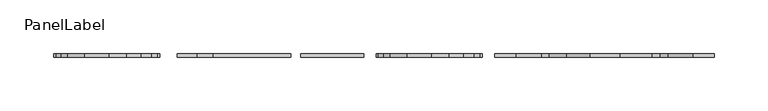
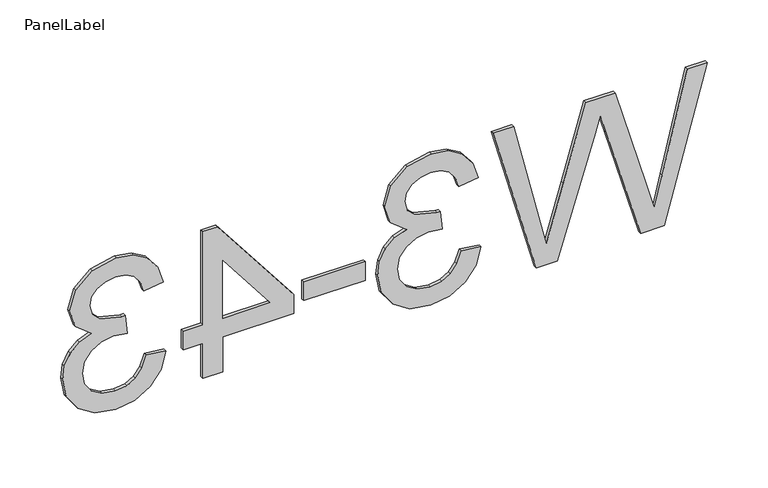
"""IFC4 building model written with IfcOpenShell, lengths in millimetres: fastener geometry, PanelLabel : Miranda."""

import ifcopenshell
import ifcopenshell.guid

model = None  # the IFC model being written
_history = None  # IfcOwnerHistory: only IFC2X3 demands one
_inside = {}  # id of a spatial element -> (the spatial element, [elements in it])
_under = {}  # id of a project, library or spatial element -> (it, [spatial elements below it])
_declared = {}  # id of a project -> (the project, [libraries it declares])
_typed = {}  # id of a type object -> (the type object, [elements of that type])
_made_of = {}  # id of a material, layer set ... -> (it, [elements and type objects made of it])


def new_model(schema):
    """Start an empty IFC model of exactly this schema.

    Asked for "IFC4X3", IfcOpenShell would pick the latest addendum, in which some entities
    have other attributes; the version numbers below select the first issue.
    IFC2X3 requires an IfcOwnerHistory on every rooted entity: one is made here for all.
    """
    global model, _history
    if schema == "IFC4X3":
        model = ifcopenshell.file(schema_version=(4, 3, 0, 0))
    else:
        model = ifcopenshell.file(schema=schema)
    _inside.clear()
    _under.clear()
    _declared.clear()
    _typed.clear()
    _made_of.clear()
    _history = None
    if model.schema == "IFC2X3":
        org = make("IfcOrganization", Name="unknown")
        user = make(
            "IfcPersonAndOrganization",
            ThePerson=make("IfcPerson", FamilyName="unknown"),
            TheOrganization=org,
        )
        app = make(
            "IfcApplication",
            ApplicationDeveloper=org,
            Version="unknown",
            ApplicationFullName="unknown",
            ApplicationIdentifier="unknown",
        )
        _history = make(
            "IfcOwnerHistory",
            OwningUser=user,
            OwningApplication=app,
            ChangeAction="ADDED",
            CreationDate=0,
        )
    return model


def make(cls, **values):
    """One entity of the class cls with the attributes given. An attribute that is None is left unset."""
    return model.create_entity(
        cls, **{name: value for name, value in values.items() if value is not None}
    )


def rooted(cls, **values):
    """An entity with a GlobalId (a new one), such as an element, a storey or a relation."""
    return make(cls, GlobalId=ifcopenshell.guid.new(), OwnerHistory=_history, **values)


def si_unit(unit_type, name, prefix=None):
    """IfcSIUnit, for example si_unit("LENGTHUNIT", "METRE", prefix="MILLI")."""
    return make("IfcSIUnit", UnitType=unit_type, Prefix=prefix, Name=name)


def assignment(units):
    """IfcUnitAssignment: the units of a project."""
    return None if units is None else make("IfcUnitAssignment", Units=units)


def point(xyz):
    """IfcCartesianPoint."""
    return None if xyz is None else make("IfcCartesianPoint", Coordinates=xyz)


def direction(xyz):
    """IfcDirection."""
    return None if xyz is None else make("IfcDirection", DirectionRatios=xyz)


def frame(location, z_axis=None, x_axis=None):
    """IfcAxis2Placement3D, a coordinate frame: its origin and axes. An axis left out is left unset."""
    return make(
        "IfcAxis2Placement3D",
        Location=point(location),
        Axis=direction(z_axis),
        RefDirection=direction(x_axis),
    )


def origin():
    """The frame at (0, 0, 0) with its axes left unset."""
    return frame((0.0, 0.0, 0.0))


def place(relative_to, where):
    """IfcLocalPlacement: puts the frame where relative to a parent placement (None: the world)."""
    return make(
        "IfcLocalPlacement", PlacementRelTo=relative_to, RelativePlacement=where
    )


def context(
    kind, dimensions, precision=None, world=None, true_north=None, identifier=None
):
    """IfcGeometricRepresentationContext, for example the 3D "Model" context."""
    return make(
        "IfcGeometricRepresentationContext",
        ContextIdentifier=identifier,
        ContextType=kind,
        CoordinateSpaceDimension=dimensions,
        Precision=precision,
        WorldCoordinateSystem=world,
        TrueNorth=true_north,
    )


def project(units=None, contexts=None):
    """IfcProject with its units and contexts."""
    return rooted(
        "IfcProject",
        Name="project",
        RepresentationContexts=contexts,
        UnitsInContext=assignment(units),
    )


def spatial(cls, under=None, at=None, **own):
    """A site, building, storey or space (cls), placed at a placement, below another one or the project."""
    s = rooted(cls, ObjectPlacement=at, **own)
    if under is not None:
        _under.setdefault(under.id(), (under, []))[1].append(s)
    return s


def polyline(points):
    """IfcPolyline through the points."""
    return make("IfcPolyline", Points=[point(p) for p in points])


def outline(outer, holes=None, kind="AREA"):
    """IfcArbitraryClosedProfileDef: a profile drawn as a closed curve; with holes, ...WithVoids."""
    if holes is None:
        return make("IfcArbitraryClosedProfileDef", ProfileType=kind, OuterCurve=outer)
    return make(
        "IfcArbitraryProfileDefWithVoids",
        ProfileType=kind,
        OuterCurve=outer,
        InnerCurves=holes,
    )


def extrude(swept, where, along, depth):
    """IfcExtrudedAreaSolid: the profile swept, set in the frame where, extruded along a direction by depth."""
    return make(
        "IfcExtrudedAreaSolid",
        SweptArea=swept,
        Position=where,
        ExtrudedDirection=direction(along),
        Depth=depth,
    )


def shape(context_of_items, identifier, shape_type, items):
    """IfcShapeRepresentation: the items that make up one representation, for example the "Body"."""
    return make(
        "IfcShapeRepresentation",
        ContextOfItems=context_of_items,
        RepresentationIdentifier=identifier,
        RepresentationType=shape_type,
        Items=items,
    )


def source(mapping_origin, context_of_items, identifier, shape_type, items):
    """IfcRepresentationMap: a shape defined once, which mapped items show again and again."""
    return make(
        "IfcRepresentationMap",
        MappingOrigin=mapping_origin,
        MappedRepresentation=shape(context_of_items, identifier, shape_type, items),
    )


def transform(
    local_origin,
    x_axis=None,
    y_axis=None,
    z_axis=None,
    scale=None,
    scale2=None,
    scale3=None,
    uniform=True,
):
    """IfcCartesianTransformationOperator3D, or its non-uniform kind. x_axis, y_axis, z_axis: its Axis1, 2, 3."""
    if uniform:
        return make(
            "IfcCartesianTransformationOperator3D",
            Axis1=direction(x_axis),
            Axis2=direction(y_axis),
            LocalOrigin=point(local_origin),
            Scale=scale,
            Axis3=direction(z_axis),
        )
    return make(
        "IfcCartesianTransformationOperator3DnonUniform",
        Axis1=direction(x_axis),
        Axis2=direction(y_axis),
        LocalOrigin=point(local_origin),
        Scale=scale,
        Axis3=direction(z_axis),
        Scale2=scale2,
        Scale3=scale3,
    )


def mapped(mapping_source, mapping_target):
    """IfcMappedItem: shows the shape of a source again, moved by a transform."""
    return make(
        "IfcMappedItem", MappingSource=mapping_source, MappingTarget=mapping_target
    )


def made_of(thing, what):
    """Note that an element or type object is made of a material, layer set ...; save() writes the relation."""
    if what is not None:
        _made_of.setdefault(what.id(), (what, []))[1].append(thing)
    return thing


def element(
    cls,
    number,
    at=None,
    inside=None,
    cuts=None,
    type_object=None,
    material=None,
    context=None,
    identifier="Body",
    shape_type=None,
    held_by="IfcProductDefinitionShape",
    body=None,
    shapes=None,
    **own,
):
    """One element of the class cls, such as IfcWall. Its Tag is "e" and its number.

    at: its placement. inside: the storey or other place that contains it. cuts: it is an
    opening in that element (IfcRelVoidsElement). A single representation is given by context,
    identifier, shape_type and body (its items); several are given by shapes. held_by: the class
    of the entity that holds the representations. save() writes the other relations.
    """
    e = rooted(cls, Tag="e%d" % number, ObjectPlacement=at, **own)
    if body is not None:
        shapes = [shape(context, identifier, shape_type, body)]
    if shapes is not None:
        e.Representation = make(held_by, Representations=shapes)
    if inside is not None:
        _inside.setdefault(inside.id(), (inside, []))[1].append(e)
    if cuts is not None:
        rooted(
            "IfcRelVoidsElement", RelatingBuildingElement=cuts, RelatedOpeningElement=e
        )
    if type_object is not None:
        _typed.setdefault(type_object.id(), (type_object, []))[1].append(e)
    return made_of(e, material)


def aggregate(whole, parts):
    """IfcRelAggregates: a whole, such as a stair, and the parts it consists of."""
    return rooted("IfcRelAggregates", RelatingObject=whole, RelatedObjects=parts)


def save(model, path):
    """Write the relations noted so far, then the file.

    IfcRelAggregates (storeys below a building ...), IfcRelContainedInSpatialStructure (elements
    in a storey), IfcRelDefinesByType, IfcRelAssociatesMaterial and IfcRelDeclares: one each for
    every whole, place, type object, material and project.
    """
    for whole, parts in _under.values():
        aggregate(whole, parts)
    for where, things in _inside.values():
        rooted(
            "IfcRelContainedInSpatialStructure",
            RelatedElements=things,
            RelatingStructure=where,
        )
    for kind, things in _typed.values():
        rooted("IfcRelDefinesByType", RelatedObjects=things, RelatingType=kind)
    for what, things in _made_of.values():
        rooted("IfcRelAssociatesMaterial", RelatedObjects=things, RelatingMaterial=what)
    for by, libraries in _declared.values():
        rooted("IfcRelDeclares", RelatingContext=by, RelatedDefinitions=libraries)
    model.write(path)


def panellabel_ba2c120b(model_context):
    return source(origin(), model_context, "Body", "SweptSolid", [
        extrude(outline(polyline([(1310.9113766, 268.5683654), (1460.9667612, 309.4892308), (1460.9667612, 290.1461538), (1362.3463766, 266.4069231), (1331.9030112, 259.08), (1358.8294535, 251.2401923), (1460.9667612, 221.4928846), (1460.9667612, 193.6139423), (1386.9282035, 171.9995192), (1331.9030112, 155.9169231), (1361.4671458, 148.8098077), (1460.9667612, 124.8507692), (1460.9667612, 105.5076923), (1310.9113766, 146.4651923), (1310.9113766, 166.5043269), (1426.6767612, 202.4795192), (1442.8326266, 207.4984615), (1423.3796458, 213.1401923), (1310.9113766, 245.9281731), (1310.9113766, 268.5683654)])), frame((0.0, 100.80625, 0.0), z_axis=(0.0, 1.0, 0.0), x_axis=(0.0, 0.0, 1.0)), (0.0, 0.0, 1.0), 3.175),
        extrude(outline(polyline([(1350.7698381, 93.7846154), (1353.1144535, 75.0276923), (1341.327266, 70.8284495), (1333.3683958, 64.6784135), (1328.8348622, 56.2753486), (1327.3236843, 45.3170192), (1329.4026987, 32.4582692), (1335.639742, 22.5302885), (1344.9449343, 16.1833413), (1356.2283958, 14.0676923), (1366.9394415, 16.165024), (1375.6264247, 22.4570192), (1381.3826386, 31.9820192), (1383.3013766, 43.7783654), (1381.2498381, 56.9301923), (1400.0067612, 54.8420192), (1399.7869535, 51.8379808), (1405.172242, 30.5532692), (1412.0045977, 23.4644712), (1421.7310881, 21.1015385), (1429.8319174, 22.8142067), (1436.4032516, 27.9522115), (1440.7581915, 35.7920192), (1442.2098381, 45.6100962), (1440.7444535, 55.4464904), (1436.3482997, 63.4877885), (1429.0213766, 69.3584856), (1418.7636843, 72.6830769), (1421.1082997, 91.44), (1437.9510641, 85.9173317), (1450.5258958, 76.0900962), (1458.3565448, 62.6451923), (1460.9667612, 46.2695192), (1455.8195977, 23.6476442), (1441.7519054, 7.8214904), (1422.8301266, 2.3446154), (1405.5385881, 7.5467308), (1393.1194535, 22.9332692), (1388.3752708, 11.191875), (1380.2973381, 2.4911538), (1369.3252708, -2.8941346), (1355.8986843, -4.6892308), (1337.6180112, -1.0990385), (1322.3413766, 9.6715385), (1312.010415, 25.928149), (1308.5667612, 45.9764423), (1311.5066891, 64.1105769), (1320.3264727, 78.8743269), (1333.8171698, 89.1411779), (1350.7698381, 93.7846154)])), frame((0.0, 100.80625, 0.0), z_axis=(0.0, 1.0, 0.0), x_axis=(0.0, 0.0, 1.0)), (0.0, 0.0, 1.0), 3.175),
        extrude(outline(polyline([(-75.0276923, 103.98125), (-16.4123077, 103.98125), (-16.4123077, 100.80625), (-75.0276923, 100.80625), (-75.0276923, 103.98125)])), frame((0.0, 0.0, 1355.4590689), z_axis=(0.0, 0.0, 1.0), x_axis=(1.0, 0.0, 0.0)), (0.0, 0.0, 1.0), 18.7569231),
        extrude(outline(polyline([(1310.9113766, -152.4), (1346.0806073, -152.4), (1346.0806073, -84.4061538), (1364.8375304, -84.4061538), (1458.6221458, -157.0892308), (1458.6221458, -171.1569231), (1364.8375304, -171.1569231), (1364.8375304, -189.9138462), (1346.0806073, -189.9138462), (1346.0806073, -171.1569231), (1310.9113766, -171.1569231), (1310.9113766, -152.4)]), holes=[polyline([(1364.8375304, -152.4), (1422.793492, -152.4), (1364.8375304, -107.4859615), (1364.8375304, -152.4)])]), frame((0.0, 100.80625, 0.0), z_axis=(0.0, 1.0, 0.0), x_axis=(0.0, 0.0, 1.0)), (0.0, 0.0, 1.0), 3.175),
        extrude(outline(polyline([(1350.7698381, -206.3261538), (1353.1144535, -225.0830769), (1341.327266, -229.2823197), (1333.3683958, -235.4323558), (1328.8348622, -243.8354207), (1327.3236843, -254.79375), (1329.4026987, -267.6525), (1335.639742, -277.5804808), (1344.9449343, -283.9274279), (1356.2283958, -286.0430769), (1366.9394415, -283.9457452), (1375.6264247, -277.65375), (1381.3826386, -268.12875), (1383.3013766, -256.3324038), (1381.2498381, -243.1805769), (1400.0067612, -245.26875), (1399.7869535, -248.2727885), (1405.172242, -269.5575), (1412.0045977, -276.6462981), (1421.7310881, -279.0092308), (1429.8319174, -277.2965625), (1436.4032516, -272.1585577), (1440.7581915, -264.31875), (1442.2098381, -254.5006731), (1440.7444535, -244.6642788), (1436.3482997, -236.6229808), (1429.0213766, -230.7522837), (1418.7636843, -227.4276923), (1421.1082997, -208.6707692), (1437.9510641, -214.1934375), (1450.5258958, -224.0206731), (1458.3565448, -237.4655769), (1460.9667612, -253.84125), (1455.8195977, -276.463125), (1441.7519054, -292.2892788), (1422.8301266, -297.7661538), (1405.5385881, -292.5640385), (1393.1194535, -277.1775), (1388.3752708, -288.9188942), (1380.2973381, -297.6196154), (1369.3252708, -303.0049038), (1355.8986843, -304.8), (1337.6180112, -301.2098077), (1322.3413766, -290.4392308), (1312.010415, -274.1826202), (1308.5667612, -254.1343269), (1311.5066891, -236.0001923), (1320.3264727, -221.2364423), (1333.8171698, -210.9695913), (1350.7698381, -206.3261538)])), frame((0.0, 100.80625, 0.0), z_axis=(0.0, 1.0, 0.0), x_axis=(0.0, 0.0, 1.0)), (0.0, 0.0, 1.0), 3.175),
    ])


if __name__ == "__main__":
    model = new_model("IFC4")
    model_context = context("Model", 3, world=origin())
    ifc_project = project(units=[si_unit("LENGTHUNIT", "METRE", prefix="MILLI")], contexts=[model_context])
    site = spatial("IfcSite", under=ifc_project)
    building = spatial("IfcBuilding", under=site)
    placement = place(None, origin())
    panellabel_shape = panellabel_ba2c120b(model_context)
    element("IfcFastener", 1, ObjectType="PanelLabel : Miranda", at=placement, inside=building, context=model_context, shape_type="MappedRepresentation", body=[
        mapped(panellabel_shape, transform((0.0, 0.0, 0.0), x_axis=(1.0, 0.0, 0.0), y_axis=(0.0, 1.0, 0.0), z_axis=(0.0, 0.0, 1.0))),
    ])
    save(model, "model.ifc")
